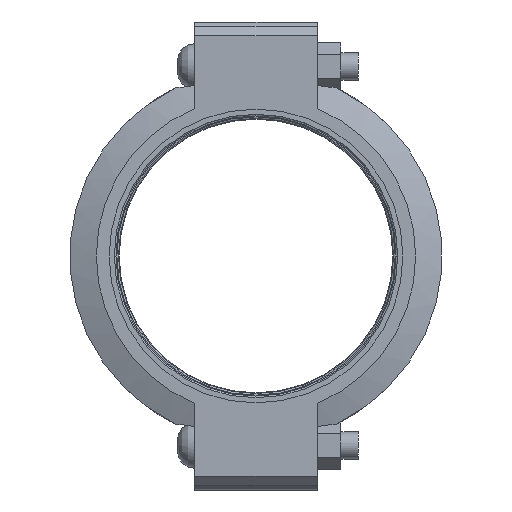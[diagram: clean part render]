
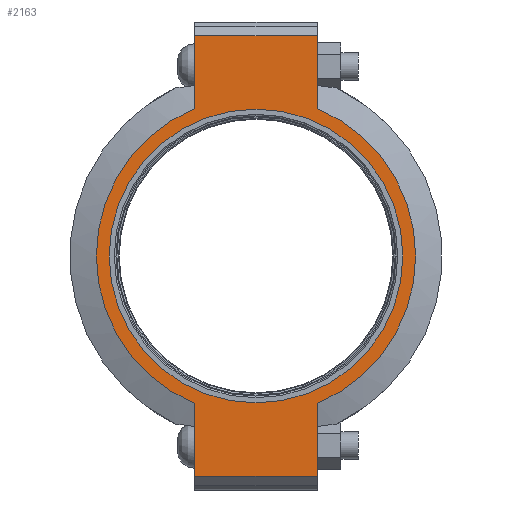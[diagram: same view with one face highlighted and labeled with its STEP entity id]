
A CAD part, left-side view. The second image highlights one B-rep face of the part: STEP entity #2163.
In plain terms, the highlighted planar face has unit normal (-1, 0, 0) as drawn and (0, 0, 1) by its records, which use the part's own axes.
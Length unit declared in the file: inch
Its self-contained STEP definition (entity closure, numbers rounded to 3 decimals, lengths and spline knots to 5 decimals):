
#216=LINE('',#3829,#311);
#227=LINE('',#3880,#322);
#233=LINE('',#3906,#328);
#235=LINE('',#3909,#330);
#236=LINE('',#3914,#331);
#237=LINE('',#3915,#332);
#311=VECTOR('',#3130,0.3937);
#322=VECTOR('',#3161,0.3937);
#328=VECTOR('',#3179,0.3937);
#330=VECTOR('',#3183,0.3937);
#331=VECTOR('',#3188,0.3937);
#332=VECTOR('',#3189,0.3937);
#399=FACE_BOUND('',#672,.T.);
#444=PLANE('',#2535);
#539=FACE_OUTER_BOUND('',#671,.T.);
#671=EDGE_LOOP('',(#1844,#1845,#1846,#1847,#1848,#1849,#1850,#1851));
#672=EDGE_LOOP('',(#1852));
#833=CIRCLE('',#2484,5.375);
#857=CIRCLE('',#2536,5.845);
#858=CIRCLE('',#2537,5.845);
#992=VERTEX_POINT('',#3655);
#1033=VERTEX_POINT('',#3826);
#1034=VERTEX_POINT('',#3828);
#1051=VERTEX_POINT('',#3875);
#1052=VERTEX_POINT('',#3879);
#1059=VERTEX_POINT('',#3901);
#1060=VERTEX_POINT('',#3905);
#1061=VERTEX_POINT('',#3911);
#1062=VERTEX_POINT('',#3913);
#1241=EDGE_CURVE('',#992,#992,#833,.T.);
#1298=EDGE_CURVE('',#1034,#1033,#216,.T.);
#1319=EDGE_CURVE('',#1052,#1051,#227,.T.);
#1330=EDGE_CURVE('',#1060,#1059,#233,.T.);
#1332=EDGE_CURVE('',#1060,#1033,#235,.T.);
#1333=EDGE_CURVE('',#1059,#1061,#857,.T.);
#1334=EDGE_CURVE('',#1061,#1062,#236,.T.);
#1335=EDGE_CURVE('',#1052,#1062,#237,.T.);
#1336=EDGE_CURVE('',#1051,#1034,#858,.T.);
#1844=ORIENTED_EDGE('',*,*,#1332,.F.);
#1845=ORIENTED_EDGE('',*,*,#1330,.T.);
#1846=ORIENTED_EDGE('',*,*,#1333,.T.);
#1847=ORIENTED_EDGE('',*,*,#1334,.T.);
#1848=ORIENTED_EDGE('',*,*,#1335,.F.);
#1849=ORIENTED_EDGE('',*,*,#1319,.T.);
#1850=ORIENTED_EDGE('',*,*,#1336,.T.);
#1851=ORIENTED_EDGE('',*,*,#1298,.T.);
#1852=ORIENTED_EDGE('',*,*,#1241,.T.);
#2163=ADVANCED_FACE('',(#539,#399),#444,.T.);
#2484=AXIS2_PLACEMENT_3D('',#3657,#3020,#3021);
#2535=AXIS2_PLACEMENT_3D('',#3910,#3184,#3185);
#2536=AXIS2_PLACEMENT_3D('',#3912,#3186,#3187);
#2537=AXIS2_PLACEMENT_3D('',#3916,#3190,#3191);
#3020=DIRECTION('center_axis',(0.,0.,-1.));
#3021=DIRECTION('ref_axis',(1.,0.,0.));
#3130=DIRECTION('',(1.,0.,0.));
#3161=DIRECTION('',(1.,0.,0.));
#3179=DIRECTION('',(-1.,0.,0.));
#3183=DIRECTION('',(0.,-1.,0.));
#3184=DIRECTION('center_axis',(0.,0.,1.));
#3185=DIRECTION('ref_axis',(-1.,0.,0.));
#3186=DIRECTION('center_axis',(0.,0.,1.));
#3187=DIRECTION('ref_axis',(1.,0.,0.));
#3188=DIRECTION('',(-1.,0.,0.));
#3189=DIRECTION('',(0.,1.,0.));
#3190=DIRECTION('center_axis',(0.,0.,1.));
#3191=DIRECTION('ref_axis',(1.,0.,0.));
#3655=CARTESIAN_POINT('',(-5.375,0.,1.315));
#3657=CARTESIAN_POINT('Origin',(0.,0.,1.315));
#3826=CARTESIAN_POINT('',(8.065,-2.25,1.315));
#3828=CARTESIAN_POINT('',(5.39458,-2.25,1.315));
#3829=CARTESIAN_POINT('',(-8.565,-2.25,1.315));
#3875=CARTESIAN_POINT('',(-5.39458,-2.25,1.315));
#3879=CARTESIAN_POINT('',(-8.065,-2.25,1.315));
#3880=CARTESIAN_POINT('',(-8.565,-2.25,1.315));
#3901=CARTESIAN_POINT('',(5.39458,2.25,1.315));
#3905=CARTESIAN_POINT('',(8.065,2.25,1.315));
#3906=CARTESIAN_POINT('',(8.565,2.25,1.315));
#3909=CARTESIAN_POINT('',(8.065,-1.125,1.315));
#3910=CARTESIAN_POINT('Origin',(0.,0.,
1.315));
#3911=CARTESIAN_POINT('',(-5.39458,2.25,1.315));
#3912=CARTESIAN_POINT('Origin',(0.,0.,1.315));
#3913=CARTESIAN_POINT('',(-8.065,2.25,1.315));
#3914=CARTESIAN_POINT('',(8.565,2.25,1.315));
#3915=CARTESIAN_POINT('',(-8.065,1.125,1.315));
#3916=CARTESIAN_POINT('Origin',(0.,0.,1.315));
